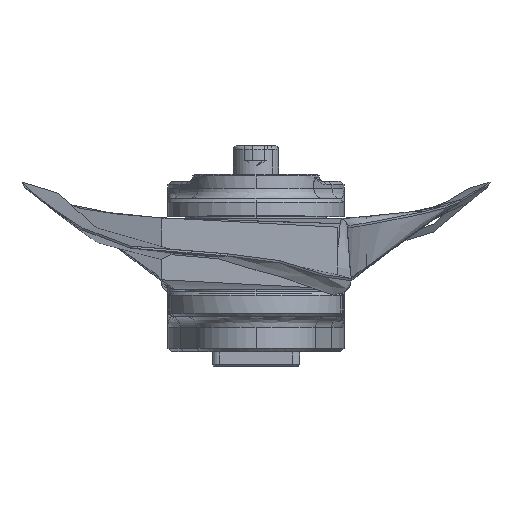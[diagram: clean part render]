
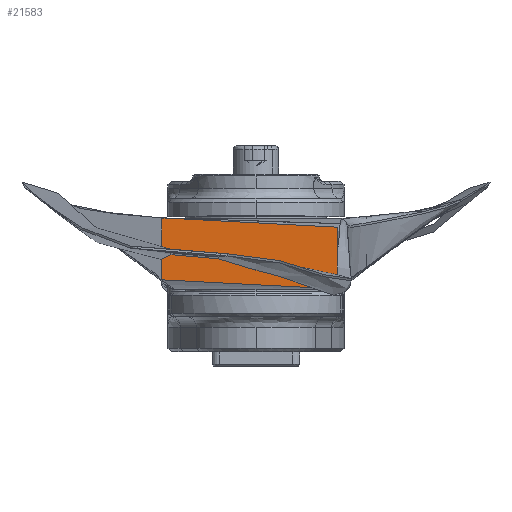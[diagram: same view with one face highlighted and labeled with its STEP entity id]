
A CAD part, left-side view. The second image highlights one B-rep face of the part: STEP entity #21583.
In plain terms, the highlighted planar face has unit normal (-1, 0, 0).
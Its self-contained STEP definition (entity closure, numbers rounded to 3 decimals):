
#476 = CARTESIAN_POINT ( 'NONE',  ( -109.558, 23.197, 9.847 ) ) ;
#641 = EDGE_CURVE ( 'NONE', #9260, #1692, #8199, .T. ) ;
#1007 = PLANE ( 'NONE',  #4710 ) ;
#1586 = EDGE_CURVE ( 'NONE', #21332, #39944, #4418, .T. ) ;
#1692 = VERTEX_POINT ( 'NONE', #11687 ) ;
#3848 = CARTESIAN_POINT ( 'NONE',  ( -109.558, 12.778, 9.825 ) ) ;
#4392 = ORIENTED_EDGE ( 'NONE', *, *, #9458, .T. ) ;
#4418 = B_SPLINE_CURVE_WITH_KNOTS ( 'NONE', 3,
 ( #14876, #28584, #42181, #13049, #43302, #22904, #33227, #43967, #37024, #16187 ),
 .UNSPECIFIED., .F., .F.,
 ( 4, 3, 3, 4 ),
 ( 0., 0.019, 0.035, 0.05 ),
 .UNSPECIFIED. ) ;
#4710 = AXIS2_PLACEMENT_3D ( 'NONE', #24788, #31502, #28394 ) ;
#7216 = CARTESIAN_POINT ( 'NONE',  ( -109.558, 14.861, 9.885 ) ) ;
#7398 = VECTOR ( 'NONE', #28560, 1000. ) ;
#7649 = CARTESIAN_POINT ( 'NONE',  ( -109.558, -24.657, 7.447 ) ) ;
#8133 = VECTOR ( 'NONE', #28086, 1000. ) ;
#8199 = B_SPLINE_CURVE_WITH_KNOTS ( 'NONE', 3,
 ( #476, #13938, #14155, #34569, #41708, #7216, #3848, #27669, #14604, #24243, #41918, #11033, #20877, #24704, #7649, #27886 ),
 .UNSPECIFIED., .F., .F.,
 ( 4, 2, 2, 2, 2, 2, 2, 4 ),
 ( 0., 0.003, 0.006, 0.013, 0.025, 0.038, 0.044, 0.05 ),
 .UNSPECIFIED. ) ;
#8412 = EDGE_LOOP ( 'NONE', ( #4392, #42202, #40724, #35666 ) ) ;
#9186 = EDGE_CURVE ( 'NONE', #39944, #9260, #21981, .T. ) ;
#9260 = VERTEX_POINT ( 'NONE', #39481 ) ;
#9458 = EDGE_CURVE ( 'NONE', #21332, #1692, #27642, .T. ) ;
#11033 = CARTESIAN_POINT ( 'NONE',  ( -109.558, -16.351, 8.154 ) ) ;
#11687 = CARTESIAN_POINT ( 'NONE',  ( -109.558, -26.732, 7.249 ) ) ;
#13049 = CARTESIAN_POINT ( 'NONE',  ( -109.558, -7.319, -9.296 ) ) ;
#13938 = CARTESIAN_POINT ( 'NONE',  ( -109.558, 22.154, 9.895 ) ) ;
#14155 = CARTESIAN_POINT ( 'NONE',  ( -109.558, 21.112, 9.915 ) ) ;
#14604 = CARTESIAN_POINT ( 'NONE',  ( -109.558, 2.366, 9.395 ) ) ;
#14876 = CARTESIAN_POINT ( 'NONE',  ( -109.558, -26.732, -10.329 ) ) ;
#16187 = CARTESIAN_POINT ( 'NONE',  ( -109.558, 23.197, -7.665 ) ) ;
#17817 = FACE_OUTER_BOUND ( 'NONE', #8412, .T. ) ;
#20860 = CARTESIAN_POINT ( 'NONE',  ( -109.558, -26.732, -290. ) ) ;
#20877 = CARTESIAN_POINT ( 'NONE',  ( -109.558, -18.428, 7.986 ) ) ;
#21332 = VERTEX_POINT ( 'NONE', #36448 ) ;
#21583 = ADVANCED_FACE ( 'NONE', ( #17817 ), #1007, .F. ) ;
#21981 = LINE ( 'NONE', #36133, #7398 ) ;
#22904 = CARTESIAN_POINT ( 'NONE',  ( -109.558, 2.853, -8.754 ) ) ;
#24243 = CARTESIAN_POINT ( 'NONE',  ( -109.558, -5.957, 8.91 ) ) ;
#24704 = CARTESIAN_POINT ( 'NONE',  ( -109.558, -22.581, 7.632 ) ) ;
#24788 = CARTESIAN_POINT ( 'NONE',  ( -109.558, 23.197, -290. ) ) ;
#27642 = LINE ( 'NONE', #20860, #8133 ) ;
#27669 = CARTESIAN_POINT ( 'NONE',  ( -109.558, 6.53, 9.602 ) ) ;
#27886 = CARTESIAN_POINT ( 'NONE',  ( -109.558, -26.732, 7.249 ) ) ;
#28086 = DIRECTION ( 'NONE',  ( 0., 0., 1. ) ) ;
#28394 = DIRECTION ( 'NONE',  ( 0., 0., -1. ) ) ;
#28560 = DIRECTION ( 'NONE',  ( 0., 0., 1. ) ) ;
#28584 = CARTESIAN_POINT ( 'NONE',  ( -109.558, -20.261, -9.986 ) ) ;
#31502 = DIRECTION ( 'NONE',  ( 1., 0., 0. ) ) ;
#33227 = CARTESIAN_POINT ( 'NONE',  ( -109.558, 7.939, -8.482 ) ) ;
#34569 = CARTESIAN_POINT ( 'NONE',  ( -109.558, 19.028, 9.929 ) ) ;
#35666 = ORIENTED_EDGE ( 'NONE', *, *, #1586, .F. ) ;
#35698 = CARTESIAN_POINT ( 'NONE',  ( -109.558, 23.197, -7.665 ) ) ;
#36133 = CARTESIAN_POINT ( 'NONE',  ( -109.558, 23.197, -290. ) ) ;
#36448 = CARTESIAN_POINT ( 'NONE',  ( -109.558, -26.732, -10.329 ) ) ;
#37024 = CARTESIAN_POINT ( 'NONE',  ( -109.558, 18.111, -7.938 ) ) ;
#39481 = CARTESIAN_POINT ( 'NONE',  ( -109.558, 23.197, 9.847 ) ) ;
#39944 = VERTEX_POINT ( 'NONE', #35698 ) ;
#40724 = ORIENTED_EDGE ( 'NONE', *, *, #9186, .F. ) ;
#41708 = CARTESIAN_POINT ( 'NONE',  ( -109.558, 17.986, 9.924 ) ) ;
#41918 = CARTESIAN_POINT ( 'NONE',  ( -109.558, -10.116, 8.632 ) ) ;
#42181 = CARTESIAN_POINT ( 'NONE',  ( -109.558, -13.79, -9.641 ) ) ;
#42202 = ORIENTED_EDGE ( 'NONE', *, *, #641, .F. ) ;
#43302 = CARTESIAN_POINT ( 'NONE',  ( -109.558, -2.233, -9.025 ) ) ;
#43967 = CARTESIAN_POINT ( 'NONE',  ( -109.558, 13.025, -8.21 ) ) ;
